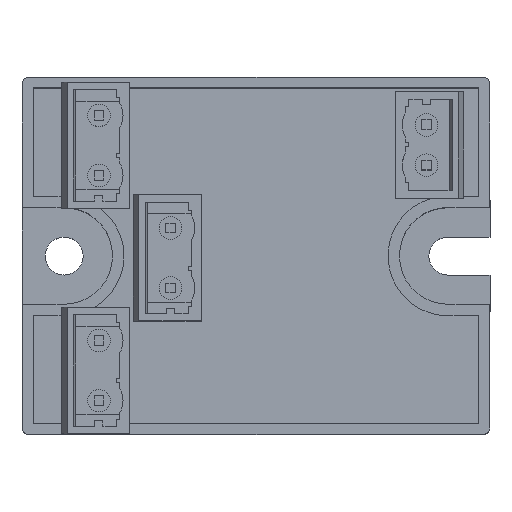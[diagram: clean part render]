
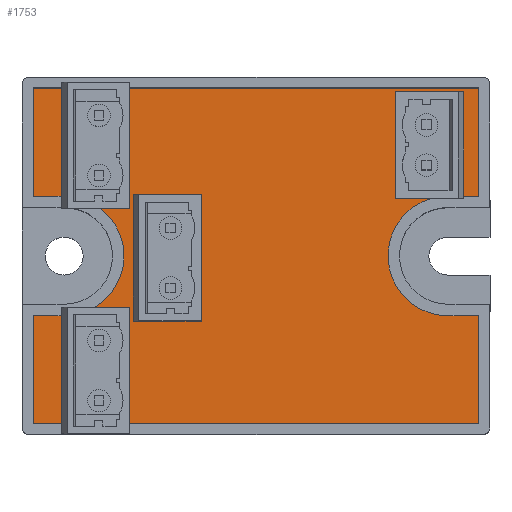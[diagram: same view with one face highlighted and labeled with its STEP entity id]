
A CAD part, top view. The second image highlights one B-rep face of the part: STEP entity #1753.
In plain terms, the highlighted planar face has unit normal (0, 0, 1).
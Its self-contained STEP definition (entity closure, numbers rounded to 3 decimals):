
#83=CARTESIAN_POINT('',(99.206,27.883,24.5));
#84=VERTEX_POINT('',#83);
#91=CARTESIAN_POINT('',(99.206,40.801,24.5));
#92=VERTEX_POINT('',#91);
#93=CARTESIAN_POINT('',(99.206,40.801,24.5));
#94=DIRECTION('',(0.0,-1.0,0.0));
#95=VECTOR('',#94,12.918);
#96=LINE('',#93,#95);
#97=EDGE_CURVE('',#92,#84,#96,.T.);
#1435=CARTESIAN_POINT('',(91.706,27.601,24.5));
#1436=VERTEX_POINT('',#1435);
#1437=CARTESIAN_POINT('',(91.706,40.801,24.5));
#1438=VERTEX_POINT('',#1437);
#1439=CARTESIAN_POINT('',(91.706,27.601,24.5));
#1440=DIRECTION('',(0.0,1.0,0.0));
#1441=VECTOR('',#1440,13.2);
#1442=LINE('',#1439,#1441);
#1443=EDGE_CURVE('',#1436,#1438,#1442,.T.);
#1481=CARTESIAN_POINT('',(96.13,27.601,24.5));
#1482=VERTEX_POINT('',#1481);
#1483=CARTESIAN_POINT('',(96.13,27.601,24.5));
#1484=DIRECTION('',(-1.0,0.0,0.0));
#1485=VECTOR('',#1484,4.424);
#1486=LINE('',#1483,#1485);
#1487=EDGE_CURVE('',#1482,#1436,#1486,.T.);
#1503=CARTESIAN_POINT('',(91.706,40.801,24.5));
#1504=DIRECTION('',(1.0,0.0,0.0));
#1505=VECTOR('',#1504,7.5);
#1506=LINE('',#1503,#1505);
#1507=EDGE_CURVE('',#1438,#92,#1506,.T.);
#1525=CARTESIAN_POINT('',(98.155,13.036,24.5));
#1526=VERTEX_POINT('',#1525);
#1527=CARTESIAN_POINT('',(98.155,20.459,24.5));
#1528=DIRECTION('',(0.0,0.0,1.0));
#1529=DIRECTION('',(0.0,-1.0,0.0));
#1530=AXIS2_PLACEMENT_3D('',#1527,#1528,#1529);
#1531=CIRCLE('',#1530,7.424);
#1532=EDGE_CURVE('',#1482,#1526,#1531,.T.);
#1552=CARTESIAN_POINT('',(74.355,20.459,24.5));
#1553=DIRECTION('',(0.0,0.0,1.0));
#1554=DIRECTION('',(1.0,0.0,0.0));
#1555=AXIS2_PLACEMENT_3D('',#1552,#1553,#1554);
#1556=PLANE('',#1555);
#1557=ORIENTED_EDGE('',*,*,#1487,.T.);
#1558=ORIENTED_EDGE('',*,*,#1443,.T.);
#1559=ORIENTED_EDGE('',*,*,#1507,.T.);
#1560=ORIENTED_EDGE('',*,*,#97,.T.);
#1561=CARTESIAN_POINT('',(101.982,27.883,24.5));
#1562=VERTEX_POINT('',#1561);
#1563=CARTESIAN_POINT('',(101.982,27.883,24.5));
#1564=DIRECTION('',(-1.0,0.0,0.0));
#1565=VECTOR('',#1564,2.775);
#1566=LINE('',#1563,#1565);
#1567=EDGE_CURVE('',#1562,#84,#1566,.T.);
#1568=ORIENTED_EDGE('',*,*,#1567,.F.);
#1569=CARTESIAN_POINT('',(101.982,41.286,24.5));
#1570=VERTEX_POINT('',#1569);
#1571=CARTESIAN_POINT('',(101.982,41.286,24.5));
#1572=DIRECTION('',(0.0,-1.0,0.0));
#1573=VECTOR('',#1572,13.403);
#1574=LINE('',#1571,#1573);
#1575=EDGE_CURVE('',#1570,#1562,#1574,.T.);
#1576=ORIENTED_EDGE('',*,*,#1575,.F.);
#1577=CARTESIAN_POINT('',(46.729,41.286,24.5));
#1578=VERTEX_POINT('',#1577);
#1579=CARTESIAN_POINT('',(46.729,41.286,24.5));
#1580=DIRECTION('',(1.0,0.0,0.0));
#1581=VECTOR('',#1580,55.253);
#1582=LINE('',#1579,#1581);
#1583=EDGE_CURVE('',#1578,#1570,#1582,.T.);
#1584=ORIENTED_EDGE('',*,*,#1583,.F.);
#1585=CARTESIAN_POINT('',(46.729,27.883,24.5));
#1586=VERTEX_POINT('',#1585);
#1587=CARTESIAN_POINT('',(46.729,27.883,24.5));
#1588=DIRECTION('',(0.0,1.0,0.0));
#1589=VECTOR('',#1588,13.403);
#1590=LINE('',#1587,#1589);
#1591=EDGE_CURVE('',#1586,#1578,#1590,.T.);
#1592=ORIENTED_EDGE('',*,*,#1591,.F.);
#1593=CARTESIAN_POINT('',(50.555,27.883,24.5));
#1594=VERTEX_POINT('',#1593);
#1595=CARTESIAN_POINT('',(50.555,27.883,24.5));
#1596=DIRECTION('',(-1.0,0.0,0.0));
#1597=VECTOR('',#1596,3.826);
#1598=LINE('',#1595,#1597);
#1599=EDGE_CURVE('',#1594,#1586,#1598,.T.);
#1600=ORIENTED_EDGE('',*,*,#1599,.F.);
#1601=CARTESIAN_POINT('',(50.555,13.036,24.5));
#1602=VERTEX_POINT('',#1601);
#1603=CARTESIAN_POINT('',(50.555,20.459,24.5));
#1604=DIRECTION('',(0.0,0.0,1.0));
#1605=DIRECTION('',(0.0,1.0,0.0));
#1606=AXIS2_PLACEMENT_3D('',#1603,#1604,#1605);
#1607=CIRCLE('',#1606,7.424);
#1608=EDGE_CURVE('',#1602,#1594,#1607,.T.);
#1609=ORIENTED_EDGE('',*,*,#1608,.F.);
#1610=CARTESIAN_POINT('',(46.729,13.036,24.5));
#1611=VERTEX_POINT('',#1610);
#1612=CARTESIAN_POINT('',(46.729,13.036,24.5));
#1613=DIRECTION('',(1.0,0.0,0.0));
#1614=VECTOR('',#1613,3.826);
#1615=LINE('',#1612,#1614);
#1616=EDGE_CURVE('',#1611,#1602,#1615,.T.);
#1617=ORIENTED_EDGE('',*,*,#1616,.F.);
#1618=CARTESIAN_POINT('',(46.729,-0.367,24.5));
#1619=VERTEX_POINT('',#1618);
#1620=CARTESIAN_POINT('',(46.729,-0.367,24.5));
#1621=DIRECTION('',(0.0,1.0,0.0));
#1622=VECTOR('',#1621,13.403);
#1623=LINE('',#1620,#1622);
#1624=EDGE_CURVE('',#1619,#1611,#1623,.T.);
#1625=ORIENTED_EDGE('',*,*,#1624,.F.);
#1626=CARTESIAN_POINT('',(101.982,-0.367,24.5));
#1627=VERTEX_POINT('',#1626);
#1628=CARTESIAN_POINT('',(101.982,-0.367,24.5));
#1629=DIRECTION('',(-1.0,0.0,0.0));
#1630=VECTOR('',#1629,55.253);
#1631=LINE('',#1628,#1630);
#1632=EDGE_CURVE('',#1627,#1619,#1631,.T.);
#1633=ORIENTED_EDGE('',*,*,#1632,.F.);
#1634=CARTESIAN_POINT('',(101.982,13.036,24.5));
#1635=VERTEX_POINT('',#1634);
#1636=CARTESIAN_POINT('',(101.982,13.036,24.5));
#1637=DIRECTION('',(0.0,-1.0,0.0));
#1638=VECTOR('',#1637,13.403);
#1639=LINE('',#1636,#1638);
#1640=EDGE_CURVE('',#1635,#1627,#1639,.T.);
#1641=ORIENTED_EDGE('',*,*,#1640,.F.);
#1642=CARTESIAN_POINT('',(98.155,13.036,24.5));
#1643=DIRECTION('',(1.0,0.0,0.0));
#1644=VECTOR('',#1643,3.826);
#1645=LINE('',#1642,#1644);
#1646=EDGE_CURVE('',#1526,#1635,#1645,.T.);
#1647=ORIENTED_EDGE('',*,*,#1646,.F.);
#1648=ORIENTED_EDGE('',*,*,#1532,.F.);
#1649=EDGE_LOOP('',(#1557,#1558,#1559,#1560,#1568,#1576,#1584,#1592,#1600,#1609,#1617,#1625,#1633,#1641,#1647,#1648));
#1650=FACE_OUTER_BOUND('',#1649,.T.);
#1651=CARTESIAN_POINT('',(60.056,25.661,24.5));
#1652=VERTEX_POINT('',#1651);
#1653=CARTESIAN_POINT('',(67.556,25.661,24.5));
#1654=VERTEX_POINT('',#1653);
#1655=CARTESIAN_POINT('',(60.056,25.661,24.5));
#1656=DIRECTION('',(1.0,0.0,0.0));
#1657=VECTOR('',#1656,7.5);
#1658=LINE('',#1655,#1657);
#1659=EDGE_CURVE('',#1652,#1654,#1658,.T.);
#1660=ORIENTED_EDGE('',*,*,#1659,.T.);
#1661=CARTESIAN_POINT('',(67.556,14.711,24.5));
#1662=VERTEX_POINT('',#1661);
#1663=CARTESIAN_POINT('',(67.556,25.661,24.5));
#1664=DIRECTION('',(0.0,-1.0,0.0));
#1665=VECTOR('',#1664,10.95);
#1666=LINE('',#1663,#1665);
#1667=EDGE_CURVE('',#1654,#1662,#1666,.T.);
#1668=ORIENTED_EDGE('',*,*,#1667,.T.);
#1669=CARTESIAN_POINT('',(60.056,14.711,24.5));
#1670=VERTEX_POINT('',#1669);
#1671=CARTESIAN_POINT('',(67.556,14.711,24.5));
#1672=DIRECTION('',(-1.0,0.0,0.0));
#1673=VECTOR('',#1672,7.5);
#1674=LINE('',#1671,#1673);
#1675=EDGE_CURVE('',#1662,#1670,#1674,.T.);
#1676=ORIENTED_EDGE('',*,*,#1675,.T.);
#1677=CARTESIAN_POINT('',(60.056,14.711,24.5));
#1678=DIRECTION('',(0.0,1.0,0.0));
#1679=VECTOR('',#1678,10.95);
#1680=LINE('',#1677,#1679);
#1681=EDGE_CURVE('',#1670,#1652,#1680,.T.);
#1682=ORIENTED_EDGE('',*,*,#1681,.T.);
#1683=EDGE_LOOP('',(#1660,#1668,#1676,#1682));
#1684=FACE_BOUND('',#1683,.T.);
#1685=CARTESIAN_POINT('',(51.166,11.691,24.5));
#1686=VERTEX_POINT('',#1685);
#1687=CARTESIAN_POINT('',(58.666,11.691,24.5));
#1688=VERTEX_POINT('',#1687);
#1689=CARTESIAN_POINT('',(51.166,11.691,24.5));
#1690=DIRECTION('',(1.0,0.0,0.0));
#1691=VECTOR('',#1690,7.5);
#1692=LINE('',#1689,#1691);
#1693=EDGE_CURVE('',#1686,#1688,#1692,.T.);
#1694=ORIENTED_EDGE('',*,*,#1693,.T.);
#1695=CARTESIAN_POINT('',(58.666,0.741,24.5));
#1696=VERTEX_POINT('',#1695);
#1697=CARTESIAN_POINT('',(58.666,11.691,24.5));
#1698=DIRECTION('',(0.0,-1.0,0.0));
#1699=VECTOR('',#1698,10.95);
#1700=LINE('',#1697,#1699);
#1701=EDGE_CURVE('',#1688,#1696,#1700,.T.);
#1702=ORIENTED_EDGE('',*,*,#1701,.T.);
#1703=CARTESIAN_POINT('',(51.166,0.741,24.5));
#1704=VERTEX_POINT('',#1703);
#1705=CARTESIAN_POINT('',(58.666,0.741,24.5));
#1706=DIRECTION('',(-1.0,0.0,0.0));
#1707=VECTOR('',#1706,7.5);
#1708=LINE('',#1705,#1707);
#1709=EDGE_CURVE('',#1696,#1704,#1708,.T.);
#1710=ORIENTED_EDGE('',*,*,#1709,.T.);
#1711=CARTESIAN_POINT('',(51.166,0.741,24.5));
#1712=DIRECTION('',(0.0,1.0,0.0));
#1713=VECTOR('',#1712,10.95);
#1714=LINE('',#1711,#1713);
#1715=EDGE_CURVE('',#1704,#1686,#1714,.T.);
#1716=ORIENTED_EDGE('',*,*,#1715,.T.);
#1717=EDGE_LOOP('',(#1694,#1702,#1710,#1716));
#1718=FACE_BOUND('',#1717,.T.);
#1719=CARTESIAN_POINT('',(51.166,39.631,24.5));
#1720=VERTEX_POINT('',#1719);
#1721=CARTESIAN_POINT('',(58.666,39.631,24.5));
#1722=VERTEX_POINT('',#1721);
#1723=CARTESIAN_POINT('',(51.166,39.631,24.5));
#1724=DIRECTION('',(1.0,0.0,0.0));
#1725=VECTOR('',#1724,7.5);
#1726=LINE('',#1723,#1725);
#1727=EDGE_CURVE('',#1720,#1722,#1726,.T.);
#1728=ORIENTED_EDGE('',*,*,#1727,.T.);
#1729=CARTESIAN_POINT('',(58.666,28.681,24.5));
#1730=VERTEX_POINT('',#1729);
#1731=CARTESIAN_POINT('',(58.666,39.631,24.5));
#1732=DIRECTION('',(0.0,-1.0,0.0));
#1733=VECTOR('',#1732,10.95);
#1734=LINE('',#1731,#1733);
#1735=EDGE_CURVE('',#1722,#1730,#1734,.T.);
#1736=ORIENTED_EDGE('',*,*,#1735,.T.);
#1737=CARTESIAN_POINT('',(51.166,28.681,24.5));
#1738=VERTEX_POINT('',#1737);
#1739=CARTESIAN_POINT('',(58.666,28.681,24.5));
#1740=DIRECTION('',(-1.0,0.0,0.0));
#1741=VECTOR('',#1740,7.5);
#1742=LINE('',#1739,#1741);
#1743=EDGE_CURVE('',#1730,#1738,#1742,.T.);
#1744=ORIENTED_EDGE('',*,*,#1743,.T.);
#1745=CARTESIAN_POINT('',(51.166,28.681,24.5));
#1746=DIRECTION('',(0.0,1.0,0.0));
#1747=VECTOR('',#1746,10.95);
#1748=LINE('',#1745,#1747);
#1749=EDGE_CURVE('',#1738,#1720,#1748,.T.);
#1750=ORIENTED_EDGE('',*,*,#1749,.T.);
#1751=EDGE_LOOP('',(#1728,#1736,#1744,#1750));
#1752=FACE_BOUND('',#1751,.T.);
#1753=ADVANCED_FACE('',(#1650,#1684,#1718,#1752),#1556,.T.);
